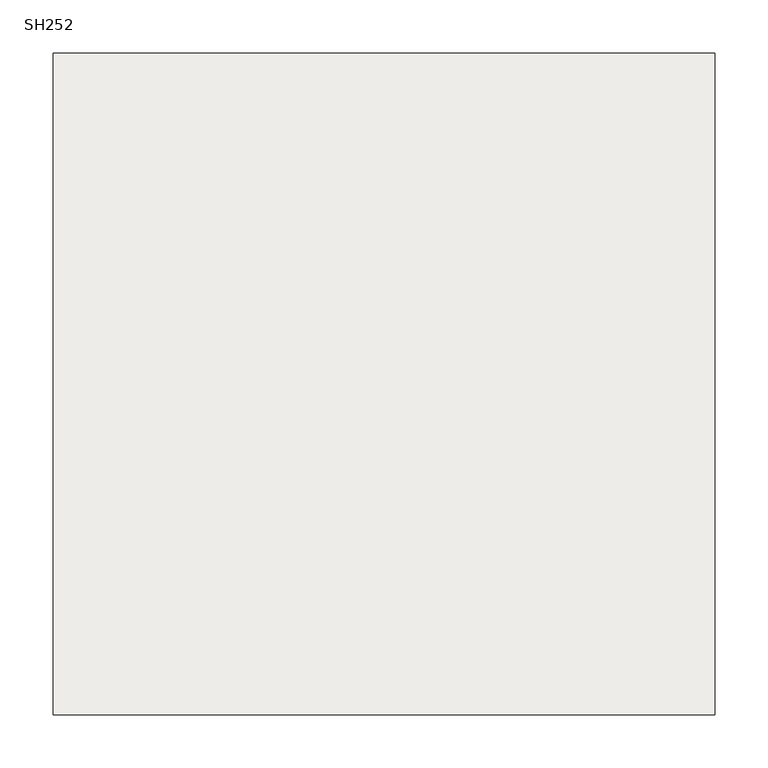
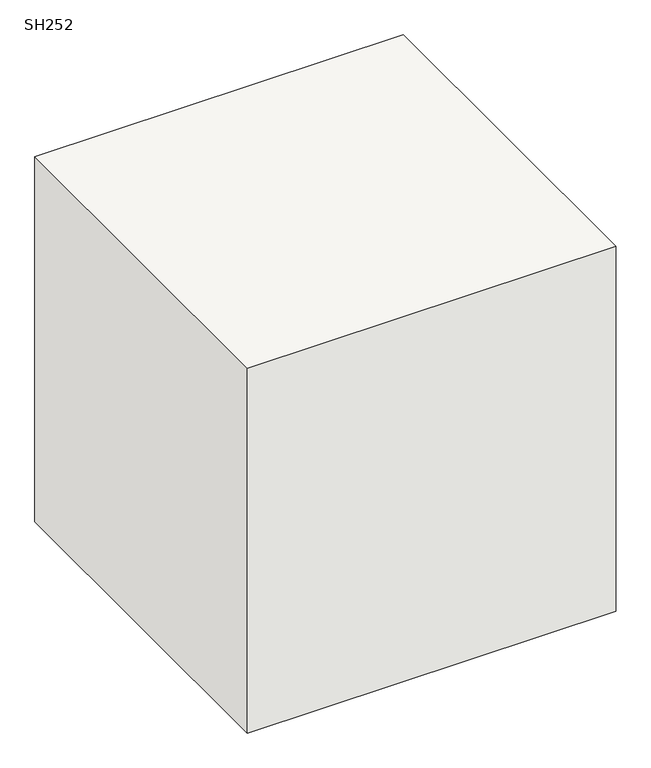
"""IFC4 building model written with IfcOpenShell, lengths in millimetres: slab geometry, 柱形_SH : SH252."""

from ifc_helpers import new_model, si_unit, frame, origin, place, context, project, spatial, polyline, outline, extrude, source, transform, mapped, element, save


def sh252_e3db69f3(model_context):
    return source(origin(), model_context, "Body", "SweptSolid", [
        extrude(outline(polyline([(310.0, 310.0), (310.0, -310.0), (-310.0, -310.0), (-310.0, 310.0), (310.0, 310.0)])), frame((0.0, 0.0, -650.0), z_axis=(0.0, 0.0, 1.0), x_axis=(1.0, 0.0, 0.0)), (0.0, 0.0, 1.0), 650.0),
    ])


if __name__ == "__main__":
    model = new_model("IFC4")
    model_context = context("Model", 3, world=origin())
    ifc_project = project(units=[si_unit("LENGTHUNIT", "METRE", prefix="MILLI")], contexts=[model_context])
    site = spatial("IfcSite", under=ifc_project)
    building = spatial("IfcBuilding", under=site)
    placement = place(None, origin())
    sh252_shape = sh252_e3db69f3(model_context)
    element("IfcSlab", 1, ObjectType="柱形_SH : SH252", at=placement, inside=building, context=model_context, shape_type="MappedRepresentation", body=[
        mapped(sh252_shape, transform((0.0, 0.0, 0.0), x_axis=(1.0, 0.0, 0.0), y_axis=(0.0, 1.0, 0.0), z_axis=(0.0, 0.0, 1.0))),
    ])
    save(model, "model.ifc")
